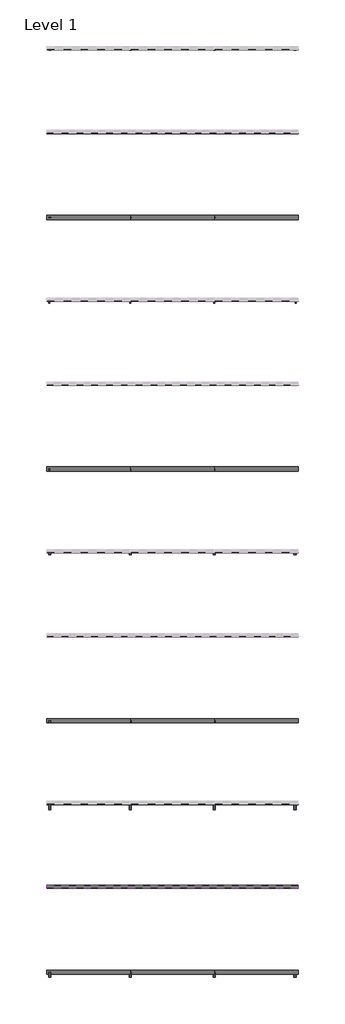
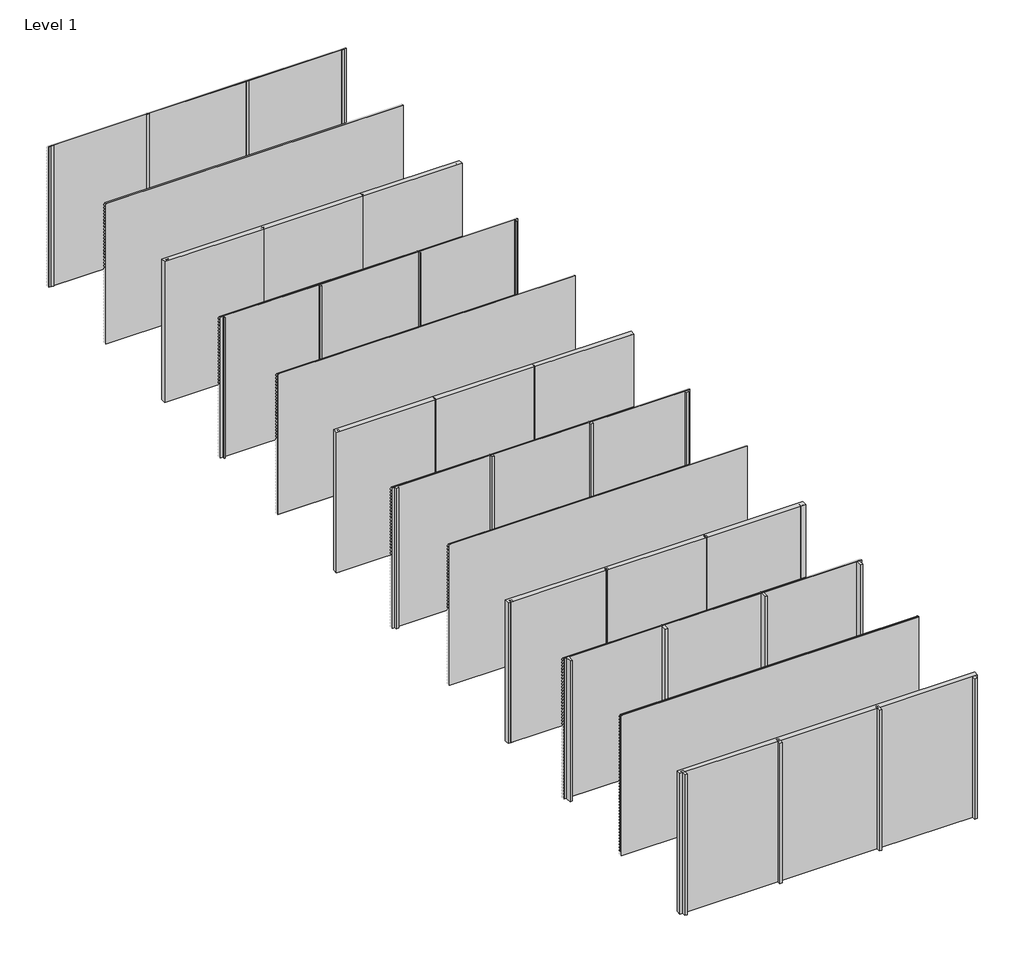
# One storey, part 1 of 9: 45 proxies, 32 members, 28 plates.
"""IFC4 building model written with IfcOpenShell, lengths in millimetres."""

from ifc_helpers import new_model, si_unit, frame, origin, origin_with_axes, place, context, project, spatial, polyline, outline, extrude, transform, mapped, element, save
from components import rectangular_mullion_bbbcbd30, rectangular_mullion_f8d4a220, rectangular_mullion_81aaf6fe, rectangular_mullion_6e08dc26, rectangular_mullion_75c52e10, rectangular_mullion_40295cf1, rectangular_mullion_7f158cb3, rectangular_mullion_66519e13, rectangular_mullion_5829b51c, rectangular_mullion_3b5b8a15, rectangular_mullion_81543344, rectangular_mullion_041a21c4, empty_system_panel_empty_24b1c33f, empty_system_panel_empty_63adb5f1

model = new_model("IFC4")

# Units and contexts
model_context = context("Model", 3, world=origin())
ifc_project = project(units=[si_unit("LENGTHUNIT", "METRE", prefix="MILLI")], contexts=[model_context])

# Site, building, storey
site = spatial("IfcSite", under=ifc_project)
building = spatial("IfcBuilding", under=site)
storey = spatial("IfcBuildingStorey", under=building, Name="Level 1", Elevation=0.0)

# Proxies
placement = place(None, origin())
element("IfcBuildingElementProxy", 1, Name="Wall Sweeps", at=placement, inside=storey, context=model_context, shape_type="SweptSolid", body=[
    extrude(outline(polyline([(-19926.0, 2942.0), (-19926.0, 2919.0), (-19961.5, 2954.5), (-19997.0, 2919.0), (-19997.0, 2942.0), (-19962.5, 2976.5), (-19962.5, 2990.0), (-19960.5, 2990.0), (-19960.5, 2976.5), (-19926.0, 2942.0)])), frame((0.0, 0.0, 0.0), z_axis=(1.0, 0.0, 0.0), x_axis=(0.0, 1.0, 0.0)), (0.0, 0.0, 1.0), 6000.0),
])
element("IfcBuildingElementProxy", 2, Name="Wall Sweeps", at=placement, inside=storey, context=model_context, shape_type="SweptSolid", body=[
    extrude(outline(polyline([(-19926.0, 2877.0), (-19926.0, 2854.0), (-19961.5, 2889.5), (-19997.0, 2854.0), (-19997.0, 2877.0), (-19962.5, 2911.5), (-19962.5, 2925.0), (-19960.5, 2925.0), (-19960.5, 2911.5), (-19926.0, 2877.0)])), frame((0.0, 0.0, 0.0), z_axis=(1.0, 0.0, 0.0), x_axis=(0.0, 1.0, 0.0)), (0.0, 0.0, 1.0), 6000.0),
])
element("IfcBuildingElementProxy", 3, Name="Wall Sweeps", at=placement, inside=storey, context=model_context, shape_type="SweptSolid", body=[
    extrude(outline(polyline([(-19926.0, 2812.0), (-19926.0, 2789.0), (-19961.5, 2824.5), (-19997.0, 2789.0), (-19997.0, 2812.0), (-19962.5, 2846.5), (-19962.5, 2860.0), (-19960.5, 2860.0), (-19960.5, 2846.5), (-19926.0, 2812.0)])), frame((0.0, 0.0, 0.0), z_axis=(1.0, 0.0, 0.0), x_axis=(0.0, 1.0, 0.0)), (0.0, 0.0, 1.0), 6000.0),
])
element("IfcBuildingElementProxy", 4, Name="Wall Sweeps", at=placement, inside=storey, context=model_context, shape_type="SweptSolid", body=[
    extrude(outline(polyline([(-19926.0, 2747.0), (-19926.0, 2724.0), (-19961.5, 2759.5), (-19997.0, 2724.0), (-19997.0, 2747.0), (-19962.5, 2781.5), (-19962.5, 2795.0), (-19960.5, 2795.0), (-19960.5, 2781.5), (-19926.0, 2747.0)])), frame((0.0, 0.0, 0.0), z_axis=(1.0, 0.0, 0.0), x_axis=(0.0, 1.0, 0.0)), (0.0, 0.0, 1.0), 6000.0),
])
element("IfcBuildingElementProxy", 5, Name="Wall Sweeps", at=placement, inside=storey, context=model_context, shape_type="SweptSolid", body=[
    extrude(outline(polyline([(-19926.0, 2682.0), (-19926.0, 2659.0), (-19961.5, 2694.5), (-19997.0, 2659.0), (-19997.0, 2682.0), (-19962.5, 2716.5), (-19962.5, 2730.0), (-19960.5, 2730.0), (-19960.5, 2716.5), (-19926.0, 2682.0)])), frame((0.0, 0.0, 0.0), z_axis=(1.0, 0.0, 0.0), x_axis=(0.0, 1.0, 0.0)), (0.0, 0.0, 1.0), 6000.0),
])
element("IfcBuildingElementProxy", 6, Name="Wall Sweeps", at=placement, inside=storey, context=model_context, shape_type="SweptSolid", body=[
    extrude(outline(polyline([(-19926.0, 2617.0), (-19926.0, 2594.0), (-19961.5, 2629.5), (-19997.0, 2594.0), (-19997.0, 2617.0), (-19962.5, 2651.5), (-19962.5, 2665.0), (-19960.5, 2665.0), (-19960.5, 2651.5), (-19926.0, 2617.0)])), frame((0.0, 0.0, 0.0), z_axis=(1.0, 0.0, 0.0), x_axis=(0.0, 1.0, 0.0)), (0.0, 0.0, 1.0), 6000.0),
])
element("IfcBuildingElementProxy", 7, Name="Wall Sweeps", at=placement, inside=storey, context=model_context, shape_type="SweptSolid", body=[
    extrude(outline(polyline([(-19926.0, 2552.0), (-19926.0, 2529.0), (-19961.5, 2564.5), (-19997.0, 2529.0), (-19997.0, 2552.0), (-19962.5, 2586.5), (-19962.5, 2600.0), (-19960.5, 2600.0), (-19960.5, 2586.5), (-19926.0, 2552.0)])), frame((0.0, 0.0, 0.0), z_axis=(1.0, 0.0, 0.0), x_axis=(0.0, 1.0, 0.0)), (0.0, 0.0, 1.0), 6000.0),
])
element("IfcBuildingElementProxy", 8, Name="Wall Sweeps", at=placement, inside=storey, context=model_context, shape_type="SweptSolid", body=[
    extrude(outline(polyline([(-19926.0, 2487.0), (-19926.0, 2464.0), (-19961.5, 2499.5), (-19997.0, 2464.0), (-19997.0, 2487.0), (-19962.5, 2521.5), (-19962.5, 2535.0), (-19960.5, 2535.0), (-19960.5, 2521.5), (-19926.0, 2487.0)])), frame((0.0, 0.0, 0.0), z_axis=(1.0, 0.0, 0.0), x_axis=(0.0, 1.0, 0.0)), (0.0, 0.0, 1.0), 6000.0),
])
element("IfcBuildingElementProxy", 9, Name="Wall Sweeps", at=placement, inside=storey, context=model_context, shape_type="SweptSolid", body=[
    extrude(outline(polyline([(-19926.0, 2422.0), (-19926.0, 2399.0), (-19961.5, 2434.5), (-19997.0, 2399.0), (-19997.0, 2422.0), (-19962.5, 2456.5), (-19962.5, 2470.0), (-19960.5, 2470.0), (-19960.5, 2456.5), (-19926.0, 2422.0)])), frame((0.0, 0.0, 0.0), z_axis=(1.0, 0.0, 0.0), x_axis=(0.0, 1.0, 0.0)), (0.0, 0.0, 1.0), 6000.0),
])
element("IfcBuildingElementProxy", 10, Name="Wall Sweeps", at=placement, inside=storey, context=model_context, shape_type="SweptSolid", body=[
    extrude(outline(polyline([(-19926.0, 2357.0), (-19926.0, 2334.0), (-19961.5, 2369.5), (-19997.0, 2334.0), (-19997.0, 2357.0), (-19962.5, 2391.5), (-19962.5, 2405.0), (-19960.5, 2405.0), (-19960.5, 2391.5), (-19926.0, 2357.0)])), frame((0.0, 0.0, 0.0), z_axis=(1.0, 0.0, 0.0), x_axis=(0.0, 1.0, 0.0)), (0.0, 0.0, 1.0), 6000.0),
])
element("IfcBuildingElementProxy", 11, Name="Wall Sweeps", at=placement, inside=storey, context=model_context, shape_type="SweptSolid", body=[
    extrude(outline(polyline([(-19926.0, 2292.0), (-19926.0, 2269.0), (-19961.5, 2304.5), (-19997.0, 2269.0), (-19997.0, 2292.0), (-19962.5, 2326.5), (-19962.5, 2340.0), (-19960.5, 2340.0), (-19960.5, 2326.5), (-19926.0, 2292.0)])), frame((0.0, 0.0, 0.0), z_axis=(1.0, 0.0, 0.0), x_axis=(0.0, 1.0, 0.0)), (0.0, 0.0, 1.0), 6000.0),
])
element("IfcBuildingElementProxy", 12, Name="Wall Sweeps", at=placement, inside=storey, context=model_context, shape_type="SweptSolid", body=[
    extrude(outline(polyline([(-19926.0, 2227.0), (-19926.0, 2204.0), (-19961.5, 2239.5), (-19997.0, 2204.0), (-19997.0, 2227.0), (-19962.5, 2261.5), (-19962.5, 2275.0), (-19960.5, 2275.0), (-19960.5, 2261.5), (-19926.0, 2227.0)])), frame((0.0, 0.0, 0.0), z_axis=(1.0, 0.0, 0.0), x_axis=(0.0, 1.0, 0.0)), (0.0, 0.0, 1.0), 6000.0),
])
element("IfcBuildingElementProxy", 13, Name="Wall Sweeps", at=placement, inside=storey, context=model_context, shape_type="SweptSolid", body=[
    extrude(outline(polyline([(-19926.0, 2162.0), (-19926.0, 2139.0), (-19961.5, 2174.5), (-19997.0, 2139.0), (-19997.0, 2162.0), (-19962.5, 2196.5), (-19962.5, 2210.0), (-19960.5, 2210.0), (-19960.5, 2196.5), (-19926.0, 2162.0)])), frame((0.0, 0.0, 0.0), z_axis=(1.0, 0.0, 0.0), x_axis=(0.0, 1.0, 0.0)), (0.0, 0.0, 1.0), 6000.0),
])
element("IfcBuildingElementProxy", 14, Name="Wall Sweeps", at=placement, inside=storey, context=model_context, shape_type="SweptSolid", body=[
    extrude(outline(polyline([(-19926.0, 2097.0), (-19926.0, 2074.0), (-19961.5, 2109.5), (-19997.0, 2074.0), (-19997.0, 2097.0), (-19962.5, 2131.5), (-19962.5, 2145.0), (-19960.5, 2145.0), (-19960.5, 2131.5), (-19926.0, 2097.0)])), frame((0.0, 0.0, 0.0), z_axis=(1.0, 0.0, 0.0), x_axis=(0.0, 1.0, 0.0)), (0.0, 0.0, 1.0), 6000.0),
])
element("IfcBuildingElementProxy", 15, Name="Wall Sweeps", at=placement, inside=storey, context=model_context, shape_type="SweptSolid", body=[
    extrude(outline(polyline([(-19926.0, 2032.0), (-19926.0, 2009.0), (-19961.5, 2044.5), (-19997.0, 2009.0), (-19997.0, 2032.0), (-19962.5, 2066.5), (-19962.5, 2080.0), (-19960.5, 2080.0), (-19960.5, 2066.5), (-19926.0, 2032.0)])), frame((0.0, 0.0, 0.0), z_axis=(1.0, 0.0, 0.0), x_axis=(0.0, 1.0, 0.0)), (0.0, 0.0, 1.0), 6000.0),
])
element("IfcBuildingElementProxy", 16, Name="Wall Sweeps", at=placement, inside=storey, context=model_context, shape_type="SweptSolid", body=[
    extrude(outline(polyline([(-19926.0, 1967.0), (-19926.0, 1944.0), (-19961.5, 1979.5), (-19997.0, 1944.0), (-19997.0, 1967.0), (-19962.5, 2001.5), (-19962.5, 2015.0), (-19960.5, 2015.0), (-19960.5, 2001.5), (-19926.0, 1967.0)])), frame((0.0, 0.0, 0.0), z_axis=(1.0, 0.0, 0.0), x_axis=(0.0, 1.0, 0.0)), (0.0, 0.0, 1.0), 6000.0),
])
element("IfcBuildingElementProxy", 17, Name="Wall Sweeps", at=placement, inside=storey, context=model_context, shape_type="SweptSolid", body=[
    extrude(outline(polyline([(-19926.0, 1902.0), (-19926.0, 1879.0), (-19961.5, 1914.5), (-19997.0, 1879.0), (-19997.0, 1902.0), (-19962.5, 1936.5), (-19962.5, 1950.0), (-19960.5, 1950.0), (-19960.5, 1936.5), (-19926.0, 1902.0)])), frame((0.0, 0.0, 0.0), z_axis=(1.0, 0.0, 0.0), x_axis=(0.0, 1.0, 0.0)), (0.0, 0.0, 1.0), 6000.0),
])
element("IfcBuildingElementProxy", 18, Name="Wall Sweeps", at=placement, inside=storey, context=model_context, shape_type="SweptSolid", body=[
    extrude(outline(polyline([(-19926.0, 1837.0), (-19926.0, 1814.0), (-19961.5, 1849.5), (-19997.0, 1814.0), (-19997.0, 1837.0), (-19962.5, 1871.5), (-19962.5, 1885.0), (-19960.5, 1885.0), (-19960.5, 1871.5), (-19926.0, 1837.0)])), frame((0.0, 0.0, 0.0), z_axis=(1.0, 0.0, 0.0), x_axis=(0.0, 1.0, 0.0)), (0.0, 0.0, 1.0), 6000.0),
])
element("IfcBuildingElementProxy", 19, Name="Wall Sweeps", at=placement, inside=storey, context=model_context, shape_type="SweptSolid", body=[
    extrude(outline(polyline([(-19926.0, 1772.0), (-19926.0, 1749.0), (-19961.5, 1784.5), (-19997.0, 1749.0), (-19997.0, 1772.0), (-19962.5, 1806.5), (-19962.5, 1820.0), (-19960.5, 1820.0), (-19960.5, 1806.5), (-19926.0, 1772.0)])), frame((0.0, 0.0, 0.0), z_axis=(1.0, 0.0, 0.0), x_axis=(0.0, 1.0, 0.0)), (0.0, 0.0, 1.0), 6000.0),
])
element("IfcBuildingElementProxy", 20, Name="Wall Sweeps", at=placement, inside=storey, context=model_context, shape_type="SweptSolid", body=[
    extrude(outline(polyline([(-19926.0, 1707.0), (-19926.0, 1684.0), (-19961.5, 1719.5), (-19997.0, 1684.0), (-19997.0, 1707.0), (-19962.5, 1741.5), (-19962.5, 1755.0), (-19960.5, 1755.0), (-19960.5, 1741.5), (-19926.0, 1707.0)])), frame((0.0, 0.0, 0.0), z_axis=(1.0, 0.0, 0.0), x_axis=(0.0, 1.0, 0.0)), (0.0, 0.0, 1.0), 6000.0),
])
element("IfcBuildingElementProxy", 21, Name="Wall Sweeps", at=placement, inside=storey, context=model_context, shape_type="SweptSolid", body=[
    extrude(outline(polyline([(-19926.0, 1642.0), (-19926.0, 1619.0), (-19961.5, 1654.5), (-19997.0, 1619.0), (-19997.0, 1642.0), (-19962.5, 1676.5), (-19962.5, 1690.0), (-19960.5, 1690.0), (-19960.5, 1676.5), (-19926.0, 1642.0)])), frame((0.0, 0.0, 0.0), z_axis=(1.0, 0.0, 0.0), x_axis=(0.0, 1.0, 0.0)), (0.0, 0.0, 1.0), 6000.0),
])
element("IfcBuildingElementProxy", 22, Name="Wall Sweeps", at=placement, inside=storey, context=model_context, shape_type="SweptSolid", body=[
    extrude(outline(polyline([(-19926.0, 1577.0), (-19926.0, 1554.0), (-19961.5, 1589.5), (-19997.0, 1554.0), (-19997.0, 1577.0), (-19962.5, 1611.5), (-19962.5, 1625.0), (-19960.5, 1625.0), (-19960.5, 1611.5), (-19926.0, 1577.0)])), frame((0.0, 0.0, 0.0), z_axis=(1.0, 0.0, 0.0), x_axis=(0.0, 1.0, 0.0)), (0.0, 0.0, 1.0), 6000.0),
])
element("IfcBuildingElementProxy", 23, Name="Wall Sweeps", at=placement, inside=storey, context=model_context, shape_type="SweptSolid", body=[
    extrude(outline(polyline([(-19926.0, 1512.0), (-19926.0, 1489.0), (-19961.5, 1524.5), (-19997.0, 1489.0), (-19997.0, 1512.0), (-19962.5, 1546.5), (-19962.5, 1560.0), (-19960.5, 1560.0), (-19960.5, 1546.5), (-19926.0, 1512.0)])), frame((0.0, 0.0, 0.0), z_axis=(1.0, 0.0, 0.0), x_axis=(0.0, 1.0, 0.0)), (0.0, 0.0, 1.0), 6000.0),
])
element("IfcBuildingElementProxy", 24, Name="Wall Sweeps", at=placement, inside=storey, context=model_context, shape_type="SweptSolid", body=[
    extrude(outline(polyline([(-19926.0, 1447.0), (-19926.0, 1424.0), (-19961.5, 1459.5), (-19997.0, 1424.0), (-19997.0, 1447.0), (-19962.5, 1481.5), (-19962.5, 1495.0), (-19960.5, 1495.0), (-19960.5, 1481.5), (-19926.0, 1447.0)])), frame((0.0, 0.0, 0.0), z_axis=(1.0, 0.0, 0.0), x_axis=(0.0, 1.0, 0.0)), (0.0, 0.0, 1.0), 6000.0),
])
element("IfcBuildingElementProxy", 25, Name="Wall Sweeps", at=placement, inside=storey, context=model_context, shape_type="SweptSolid", body=[
    extrude(outline(polyline([(-19926.0, 1382.0), (-19926.0, 1359.0), (-19961.5, 1394.5), (-19997.0, 1359.0), (-19997.0, 1382.0), (-19962.5, 1416.5), (-19962.5, 1430.0), (-19960.5, 1430.0), (-19960.5, 1416.5), (-19926.0, 1382.0)])), frame((0.0, 0.0, 0.0), z_axis=(1.0, 0.0, 0.0), x_axis=(0.0, 1.0, 0.0)), (0.0, 0.0, 1.0), 6000.0),
])
element("IfcBuildingElementProxy", 26, Name="Wall Sweeps", at=placement, inside=storey, context=model_context, shape_type="SweptSolid", body=[
    extrude(outline(polyline([(-19926.0, 1317.0), (-19926.0, 1294.0), (-19961.5, 1329.5), (-19997.0, 1294.0), (-19997.0, 1317.0), (-19962.5, 1351.5), (-19962.5, 1365.0), (-19960.5, 1365.0), (-19960.5, 1351.5), (-19926.0, 1317.0)])), frame((0.0, 0.0, 0.0), z_axis=(1.0, 0.0, 0.0), x_axis=(0.0, 1.0, 0.0)), (0.0, 0.0, 1.0), 6000.0),
])
element("IfcBuildingElementProxy", 27, Name="Wall Sweeps", at=placement, inside=storey, context=model_context, shape_type="SweptSolid", body=[
    extrude(outline(polyline([(-19926.0, 1252.0), (-19926.0, 1229.0), (-19961.5, 1264.5), (-19997.0, 1229.0), (-19997.0, 1252.0), (-19962.5, 1286.5), (-19962.5, 1300.0), (-19960.5, 1300.0), (-19960.5, 1286.5), (-19926.0, 1252.0)])), frame((0.0, 0.0, 0.0), z_axis=(1.0, 0.0, 0.0), x_axis=(0.0, 1.0, 0.0)), (0.0, 0.0, 1.0), 6000.0),
])
element("IfcBuildingElementProxy", 28, Name="Wall Sweeps", at=placement, inside=storey, context=model_context, shape_type="SweptSolid", body=[
    extrude(outline(polyline([(-19926.0, 1187.0), (-19926.0, 1164.0), (-19961.5, 1199.5), (-19997.0, 1164.0), (-19997.0, 1187.0), (-19962.5, 1221.5), (-19962.5, 1235.0), (-19960.5, 1235.0), (-19960.5, 1221.5), (-19926.0, 1187.0)])), frame((0.0, 0.0, 0.0), z_axis=(1.0, 0.0, 0.0), x_axis=(0.0, 1.0, 0.0)), (0.0, 0.0, 1.0), 6000.0),
])
element("IfcBuildingElementProxy", 29, Name="Wall Sweeps", at=placement, inside=storey, context=model_context, shape_type="SweptSolid", body=[
    extrude(outline(polyline([(-19926.0, 1122.0), (-19926.0, 1099.0), (-19961.5, 1134.5), (-19997.0, 1099.0), (-19997.0, 1122.0), (-19962.5, 1156.5), (-19962.5, 1170.0), (-19960.5, 1170.0), (-19960.5, 1156.5), (-19926.0, 1122.0)])), frame((0.0, 0.0, 0.0), z_axis=(1.0, 0.0, 0.0), x_axis=(0.0, 1.0, 0.0)), (0.0, 0.0, 1.0), 6000.0),
])
element("IfcBuildingElementProxy", 30, Name="Wall Sweeps", at=placement, inside=storey, context=model_context, shape_type="SweptSolid", body=[
    extrude(outline(polyline([(-19926.0, 1057.0), (-19926.0, 1034.0), (-19961.5, 1069.5), (-19997.0, 1034.0), (-19997.0, 1057.0), (-19962.5, 1091.5), (-19962.5, 1105.0), (-19960.5, 1105.0), (-19960.5, 1091.5), (-19926.0, 1057.0)])), frame((0.0, 0.0, 0.0), z_axis=(1.0, 0.0, 0.0), x_axis=(0.0, 1.0, 0.0)), (0.0, 0.0, 1.0), 6000.0),
])
element("IfcBuildingElementProxy", 31, Name="Wall Sweeps", at=placement, inside=storey, context=model_context, shape_type="SweptSolid", body=[
    extrude(outline(polyline([(-19926.0, 992.0), (-19926.0, 969.0), (-19961.5, 1004.5), (-19997.0, 969.0), (-19997.0, 992.0), (-19962.5, 1026.5), (-19962.5, 1040.0), (-19960.5, 1040.0), (-19960.5, 1026.5), (-19926.0, 992.0)])), frame((0.0, 0.0, 0.0), z_axis=(1.0, 0.0, 0.0), x_axis=(0.0, 1.0, 0.0)), (0.0, 0.0, 1.0), 6000.0),
])
element("IfcBuildingElementProxy", 32, Name="Wall Sweeps", at=placement, inside=storey, context=model_context, shape_type="SweptSolid", body=[
    extrude(outline(polyline([(-19926.0, 927.0), (-19926.0, 904.0), (-19961.5, 939.5), (-19997.0, 904.0), (-19997.0, 927.0), (-19962.5, 961.5), (-19962.5, 975.0), (-19960.5, 975.0), (-19960.5, 961.5), (-19926.0, 927.0)])), frame((0.0, 0.0, 0.0), z_axis=(1.0, 0.0, 0.0), x_axis=(0.0, 1.0, 0.0)), (0.0, 0.0, 1.0), 6000.0),
])
element("IfcBuildingElementProxy", 33, Name="Wall Sweeps", at=placement, inside=storey, context=model_context, shape_type="SweptSolid", body=[
    extrude(outline(polyline([(-19926.0, 862.0), (-19926.0, 839.0), (-19961.5, 874.5), (-19997.0, 839.0), (-19997.0, 862.0), (-19962.5, 896.5), (-19962.5, 910.0), (-19960.5, 910.0), (-19960.5, 896.5), (-19926.0, 862.0)])), frame((0.0, 0.0, 0.0), z_axis=(1.0, 0.0, 0.0), x_axis=(0.0, 1.0, 0.0)), (0.0, 0.0, 1.0), 6000.0),
])
element("IfcBuildingElementProxy", 34, Name="Wall Sweeps", at=placement, inside=storey, context=model_context, shape_type="SweptSolid", body=[
    extrude(outline(polyline([(-19926.0, 797.0), (-19926.0, 774.0), (-19961.5, 809.5), (-19997.0, 774.0), (-19997.0, 797.0), (-19962.5, 831.5), (-19962.5, 845.0), (-19960.5, 845.0), (-19960.5, 831.5), (-19926.0, 797.0)])), frame((0.0, 0.0, 0.0), z_axis=(1.0, 0.0, 0.0), x_axis=(0.0, 1.0, 0.0)), (0.0, 0.0, 1.0), 6000.0),
])
element("IfcBuildingElementProxy", 35, Name="Wall Sweeps", at=placement, inside=storey, context=model_context, shape_type="SweptSolid", body=[
    extrude(outline(polyline([(-19926.0, 732.0), (-19926.0, 709.0), (-19961.5, 744.5), (-19997.0, 709.0), (-19997.0, 732.0), (-19962.5, 766.5), (-19962.5, 780.0), (-19960.5, 780.0), (-19960.5, 766.5), (-19926.0, 732.0)])), frame((0.0, 0.0, 0.0), z_axis=(1.0, 0.0, 0.0), x_axis=(0.0, 1.0, 0.0)), (0.0, 0.0, 1.0), 6000.0),
])
element("IfcBuildingElementProxy", 36, Name="Wall Sweeps", at=placement, inside=storey, context=model_context, shape_type="SweptSolid", body=[
    extrude(outline(polyline([(-19926.0, 667.0), (-19926.0, 644.0), (-19961.5, 679.5), (-19997.0, 644.0), (-19997.0, 667.0), (-19962.5, 701.5), (-19962.5, 715.0), (-19960.5, 715.0), (-19960.5, 701.5), (-19926.0, 667.0)])), frame((0.0, 0.0, 0.0), z_axis=(1.0, 0.0, 0.0), x_axis=(0.0, 1.0, 0.0)), (0.0, 0.0, 1.0), 6000.0),
])
element("IfcBuildingElementProxy", 37, Name="Wall Sweeps", at=placement, inside=storey, context=model_context, shape_type="SweptSolid", body=[
    extrude(outline(polyline([(-19926.0, 602.0), (-19926.0, 579.0), (-19961.5, 614.5), (-19997.0, 579.0), (-19997.0, 602.0), (-19962.5, 636.5), (-19962.5, 650.0), (-19960.5, 650.0), (-19960.5, 636.5), (-19926.0, 602.0)])), frame((0.0, 0.0, 0.0), z_axis=(1.0, 0.0, 0.0), x_axis=(0.0, 1.0, 0.0)), (0.0, 0.0, 1.0), 6000.0),
])
element("IfcBuildingElementProxy", 38, Name="Wall Sweeps", at=placement, inside=storey, context=model_context, shape_type="SweptSolid", body=[
    extrude(outline(polyline([(-19926.0, 537.0), (-19926.0, 514.0), (-19961.5, 549.5), (-19997.0, 514.0), (-19997.0, 537.0), (-19962.5, 571.5), (-19962.5, 585.0), (-19960.5, 585.0), (-19960.5, 571.5), (-19926.0, 537.0)])), frame((0.0, 0.0, 0.0), z_axis=(1.0, 0.0, 0.0), x_axis=(0.0, 1.0, 0.0)), (0.0, 0.0, 1.0), 6000.0),
])
element("IfcBuildingElementProxy", 39, Name="Wall Sweeps", at=placement, inside=storey, context=model_context, shape_type="SweptSolid", body=[
    extrude(outline(polyline([(-19926.0, 472.0), (-19926.0, 449.0), (-19961.5, 484.5), (-19997.0, 449.0), (-19997.0, 472.0), (-19962.5, 506.5), (-19962.5, 520.0), (-19960.5, 520.0), (-19960.5, 506.5), (-19926.0, 472.0)])), frame((0.0, 0.0, 0.0), z_axis=(1.0, 0.0, 0.0), x_axis=(0.0, 1.0, 0.0)), (0.0, 0.0, 1.0), 6000.0),
])
element("IfcBuildingElementProxy", 40, Name="Wall Sweeps", at=placement, inside=storey, context=model_context, shape_type="SweptSolid", body=[
    extrude(outline(polyline([(-19926.0, 407.0), (-19926.0, 384.0), (-19961.5, 419.5), (-19997.0, 384.0), (-19997.0, 407.0), (-19962.5, 441.5), (-19962.5, 455.0), (-19960.5, 455.0), (-19960.5, 441.5), (-19926.0, 407.0)])), frame((0.0, 0.0, 0.0), z_axis=(1.0, 0.0, 0.0), x_axis=(0.0, 1.0, 0.0)), (0.0, 0.0, 1.0), 6000.0),
])
element("IfcBuildingElementProxy", 41, Name="Wall Sweeps", at=placement, inside=storey, context=model_context, shape_type="SweptSolid", body=[
    extrude(outline(polyline([(-19926.0, 342.0), (-19926.0, 319.0), (-19961.5, 354.5), (-19997.0, 319.0), (-19997.0, 342.0), (-19962.5, 376.5), (-19962.5, 390.0), (-19960.5, 390.0), (-19960.5, 376.5), (-19926.0, 342.0)])), frame((0.0, 0.0, 0.0), z_axis=(1.0, 0.0, 0.0), x_axis=(0.0, 1.0, 0.0)), (0.0, 0.0, 1.0), 6000.0),
])
element("IfcBuildingElementProxy", 42, Name="Wall Sweeps", at=placement, inside=storey, context=model_context, shape_type="SweptSolid", body=[
    extrude(outline(polyline([(-19926.0, 277.0), (-19926.0, 254.0), (-19961.5, 289.5), (-19997.0, 254.0), (-19997.0, 277.0), (-19962.5, 311.5), (-19962.5, 325.0), (-19960.5, 325.0), (-19960.5, 311.5), (-19926.0, 277.0)])), frame((0.0, 0.0, 0.0), z_axis=(1.0, 0.0, 0.0), x_axis=(0.0, 1.0, 0.0)), (0.0, 0.0, 1.0), 6000.0),
])
element("IfcBuildingElementProxy", 43, Name="Wall Sweeps", at=placement, inside=storey, context=model_context, shape_type="SweptSolid", body=[
    extrude(outline(polyline([(-19926.0, 212.0), (-19926.0, 189.0), (-19961.5, 224.5), (-19997.0, 189.0), (-19997.0, 212.0), (-19962.5, 246.5), (-19962.5, 260.0), (-19960.5, 260.0), (-19960.5, 246.5), (-19926.0, 212.0)])), frame((0.0, 0.0, 0.0), z_axis=(1.0, 0.0, 0.0), x_axis=(0.0, 1.0, 0.0)), (0.0, 0.0, 1.0), 6000.0),
])
element("IfcBuildingElementProxy", 44, Name="Wall Sweeps", at=placement, inside=storey, context=model_context, shape_type="SweptSolid", body=[
    extrude(outline(polyline([(-19926.0, 147.0), (-19926.0, 124.0), (-19961.5, 159.5), (-19997.0, 124.0), (-19997.0, 147.0), (-19962.5, 181.5), (-19962.5, 195.0), (-19960.5, 195.0), (-19960.5, 181.5), (-19926.0, 147.0)])), frame((0.0, 0.0, 0.0), z_axis=(1.0, 0.0, 0.0), x_axis=(0.0, 1.0, 0.0)), (0.0, 0.0, 1.0), 6000.0),
])
element("IfcBuildingElementProxy", 45, Name="Wall Sweeps", at=placement, inside=storey, context=model_context, shape_type="SweptSolid", body=[
    extrude(outline(polyline([(-19926.0, 82.0), (-19926.0, 59.0), (-19961.5, 94.5), (-19997.0, 59.0), (-19997.0, 82.0), (-19962.5, 116.5), (-19962.5, 130.0), (-19960.5, 130.0), (-19960.5, 116.5), (-19926.0, 82.0)])), frame((0.0, 0.0, 0.0), z_axis=(1.0, 0.0, 0.0), x_axis=(0.0, 1.0, 0.0)), (0.0, 0.0, 1.0), 6000.0),
])

# Members
rectangular_mullion_shape = rectangular_mullion_bbbcbd30(model_context)
element("IfcMember", 46, ObjectType="Rectangular Mullion : RSen_21_CWM_support profile - 50x12 - left_gen_duco projects", at=placement, inside=storey, context=model_context, shape_type="MappedRepresentation", body=[
    mapped(rectangular_mullion_shape, transform((0.0, 0.0, 0.0), x_axis=(-1.0, 0.0, 0.0), y_axis=(0.0, 1.0, 0.0), z_axis=(0.0, 0.0, -1.0))),
])
element("IfcMember", 47, ObjectType="Rectangular Mullion : RSen_21_CWM_support profile - 50x12 - left_gen_duco projects", at=placement, inside=storey, context=model_context, shape_type="MappedRepresentation", body=[
    mapped(rectangular_mullion_shape, transform((0.0, -4000.0, 0.0), x_axis=(-1.0, 0.0, 0.0), y_axis=(0.0, 1.0, 0.0), z_axis=(0.0, 0.0, -1.0))),
])
rectangular_mullion_2_shape = rectangular_mullion_f8d4a220(model_context)
element("IfcMember", 48, ObjectType="Rectangular Mullion : RSen_21_CWM_support profile - 50x12 - right_gen_duco projects", at=placement, inside=storey, context=model_context, shape_type="MappedRepresentation", body=[
    mapped(rectangular_mullion_2_shape, transform((6000.0, 0.0, 3000.0), x_axis=(1.0, 0.0, 0.0), y_axis=(0.0, 1.0, 0.0), z_axis=(0.0, 0.0, 1.0))),
])
element("IfcMember", 49, ObjectType="Rectangular Mullion : RSen_21_CWM_support profile - 50x12 - right_gen_duco projects", at=placement, inside=storey, context=model_context, shape_type="MappedRepresentation", body=[
    mapped(rectangular_mullion_2_shape, transform((6000.0, -4000.0, 3000.0), x_axis=(1.0, 0.0, 0.0), y_axis=(0.0, 1.0, 0.0), z_axis=(0.0, 0.0, 1.0))),
])
rectangular_mullion_3_shape = rectangular_mullion_81aaf6fe(model_context)
element("IfcMember", 50, ObjectType="Rectangular Mullion : RSen_21_CWM_support profile - 21x50 Multi - left_gen_duco projects", at=placement, inside=storey, context=model_context, shape_type="MappedRepresentation", body=[
    mapped(rectangular_mullion_3_shape, transform((0.0, -6000.0, 0.0), x_axis=(-1.0, 0.0, 0.0), y_axis=(0.0, 1.0, 0.0), z_axis=(0.0, 0.0, -1.0))),
])
element("IfcMember", 51, ObjectType="Rectangular Mullion : RSen_21_CWM_support profile - 21x50 Multi - left_gen_duco projects", at=placement, inside=storey, context=model_context, shape_type="MappedRepresentation", body=[
    mapped(rectangular_mullion_3_shape, transform((0.0, -10000.0, 0.0), x_axis=(-1.0, 0.0, 0.0), y_axis=(0.0, 1.0, 0.0), z_axis=(0.0, 0.0, -1.0))),
])
rectangular_mullion_4_shape = rectangular_mullion_6e08dc26(model_context)
element("IfcMember", 52, ObjectType="Rectangular Mullion : RSen_21_CWM_support profile - 21x50 Multi - right_gen_duco projects", at=placement, inside=storey, context=model_context, shape_type="MappedRepresentation", body=[
    mapped(rectangular_mullion_4_shape, transform((6000.0, -6000.0, 3000.0), x_axis=(1.0, 0.0, 0.0), y_axis=(0.0, 1.0, 0.0), z_axis=(0.0, 0.0, 1.0))),
])
element("IfcMember", 53, ObjectType="Rectangular Mullion : RSen_21_CWM_support profile - 21x50 Multi - right_gen_duco projects", at=placement, inside=storey, context=model_context, shape_type="MappedRepresentation", body=[
    mapped(rectangular_mullion_4_shape, transform((6000.0, -10000.0, 3000.0), x_axis=(1.0, 0.0, 0.0), y_axis=(0.0, 1.0, 0.0), z_axis=(0.0, 0.0, 1.0))),
])
rectangular_mullion_5_shape = rectangular_mullion_75c52e10(model_context)
element("IfcMember", 54, ObjectType="Rectangular Mullion : RSen_21_CWM_support profile - 50x50 - left_gen_duco projects", at=placement, inside=storey, context=model_context, shape_type="MappedRepresentation", body=[
    mapped(rectangular_mullion_5_shape, transform((0.0, -12000.0, 0.0), x_axis=(-1.0, 0.0, 0.0), y_axis=(0.0, 1.0, 0.0), z_axis=(0.0, 0.0, -1.0))),
])
element("IfcMember", 55, ObjectType="Rectangular Mullion : RSen_21_CWM_support profile - 50x50 - left_gen_duco projects", at=placement, inside=storey, context=model_context, shape_type="MappedRepresentation", body=[
    mapped(rectangular_mullion_5_shape, transform((0.0, -16000.0, 0.0), x_axis=(-1.0, 0.0, 0.0), y_axis=(0.0, 1.0, 0.0), z_axis=(0.0, 0.0, -1.0))),
])
rectangular_mullion_6_shape = rectangular_mullion_40295cf1(model_context)
element("IfcMember", 56, ObjectType="Rectangular Mullion : RSen_21_CWM_support profile - 50x50 - right_gen_duco projects", at=placement, inside=storey, context=model_context, shape_type="MappedRepresentation", body=[
    mapped(rectangular_mullion_6_shape, transform((6000.0, -12000.0, 3000.0), x_axis=(1.0, 0.0, 0.0), y_axis=(0.0, 1.0, 0.0), z_axis=(0.0, 0.0, 1.0))),
])
element("IfcMember", 57, ObjectType="Rectangular Mullion : RSen_21_CWM_support profile - 50x50 - right_gen_duco projects", at=placement, inside=storey, context=model_context, shape_type="MappedRepresentation", body=[
    mapped(rectangular_mullion_6_shape, transform((6000.0, -16000.0, 3000.0), x_axis=(1.0, 0.0, 0.0), y_axis=(0.0, 1.0, 0.0), z_axis=(0.0, 0.0, 1.0))),
])
rectangular_mullion_7_shape = rectangular_mullion_7f158cb3(model_context)
element("IfcMember", 58, ObjectType="Rectangular Mullion : RSen_21_CWM_support profile - 50x12_gen_duco projects", at=placement, inside=storey, context=model_context, shape_type="MappedRepresentation", body=[
    mapped(rectangular_mullion_7_shape, transform((4000.0, 0.0, 0.0), x_axis=(-1.0, 0.0, 0.0), y_axis=(0.0, 1.0, 0.0), z_axis=(0.0, 0.0, -1.0))),
])
element("IfcMember", 59, ObjectType="Rectangular Mullion : RSen_21_CWM_support profile - 50x12_gen_duco projects", at=placement, inside=storey, context=model_context, shape_type="MappedRepresentation", body=[
    mapped(rectangular_mullion_7_shape, transform((2000.0, 0.0, 0.0), x_axis=(-1.0, 0.0, 0.0), y_axis=(0.0, 1.0, 0.0), z_axis=(0.0, 0.0, -1.0))),
])
element("IfcMember", 60, ObjectType="Rectangular Mullion : RSen_21_CWM_support profile - 50x12_gen_duco projects", at=placement, inside=storey, context=model_context, shape_type="MappedRepresentation", body=[
    mapped(rectangular_mullion_7_shape, transform((4000.0, -4000.0, 0.0), x_axis=(-1.0, 0.0, 0.0), y_axis=(0.0, 1.0, 0.0), z_axis=(0.0, 0.0, -1.0))),
])
element("IfcMember", 61, ObjectType="Rectangular Mullion : RSen_21_CWM_support profile - 50x12_gen_duco projects", at=placement, inside=storey, context=model_context, shape_type="MappedRepresentation", body=[
    mapped(rectangular_mullion_7_shape, transform((2000.0, -4000.0, 0.0), x_axis=(-1.0, 0.0, 0.0), y_axis=(0.0, 1.0, 0.0), z_axis=(0.0, 0.0, -1.0))),
])
rectangular_mullion_8_shape = rectangular_mullion_66519e13(model_context)
element("IfcMember", 62, ObjectType="Rectangular Mullion : RSen_21_CWM_support profile - 21x50 Multi_gen_duco projects", at=placement, inside=storey, context=model_context, shape_type="MappedRepresentation", body=[
    mapped(rectangular_mullion_8_shape, transform((4000.0, -6000.0, 0.0), x_axis=(-1.0, 0.0, 0.0), y_axis=(0.0, 1.0, 0.0), z_axis=(0.0, 0.0, -1.0))),
])
element("IfcMember", 63, ObjectType="Rectangular Mullion : RSen_21_CWM_support profile - 21x50 Multi_gen_duco projects", at=placement, inside=storey, context=model_context, shape_type="MappedRepresentation", body=[
    mapped(rectangular_mullion_8_shape, transform((2000.0, -6000.0, 0.0), x_axis=(-1.0, 0.0, 0.0), y_axis=(0.0, 1.0, 0.0), z_axis=(0.0, 0.0, -1.0))),
])
element("IfcMember", 64, ObjectType="Rectangular Mullion : RSen_21_CWM_support profile - 21x50 Multi_gen_duco projects", at=placement, inside=storey, context=model_context, shape_type="MappedRepresentation", body=[
    mapped(rectangular_mullion_8_shape, transform((4000.0, -10000.0, 0.0), x_axis=(-1.0, 0.0, 0.0), y_axis=(0.0, 1.0, 0.0), z_axis=(0.0, 0.0, -1.0))),
])
element("IfcMember", 65, ObjectType="Rectangular Mullion : RSen_21_CWM_support profile - 21x50 Multi_gen_duco projects", at=placement, inside=storey, context=model_context, shape_type="MappedRepresentation", body=[
    mapped(rectangular_mullion_8_shape, transform((2000.0, -10000.0, 0.0), x_axis=(-1.0, 0.0, 0.0), y_axis=(0.0, 1.0, 0.0), z_axis=(0.0, 0.0, -1.0))),
])
rectangular_mullion_9_shape = rectangular_mullion_5829b51c(model_context)
element("IfcMember", 66, ObjectType="Rectangular Mullion : RSen_21_CWM_support profile - 50x50_gen_duco projects", at=placement, inside=storey, context=model_context, shape_type="MappedRepresentation", body=[
    mapped(rectangular_mullion_9_shape, transform((4000.0, -12000.0, 0.0), x_axis=(-1.0, 0.0, 0.0), y_axis=(0.0, 1.0, 0.0), z_axis=(0.0, 0.0, -1.0))),
])
element("IfcMember", 67, ObjectType="Rectangular Mullion : RSen_21_CWM_support profile - 50x50_gen_duco projects", at=placement, inside=storey, context=model_context, shape_type="MappedRepresentation", body=[
    mapped(rectangular_mullion_9_shape, transform((2000.0, -12000.0, 0.0), x_axis=(-1.0, 0.0, 0.0), y_axis=(0.0, 1.0, 0.0), z_axis=(0.0, 0.0, -1.0))),
])
element("IfcMember", 68, ObjectType="Rectangular Mullion : RSen_21_CWM_support profile - 50x50_gen_duco projects", at=placement, inside=storey, context=model_context, shape_type="MappedRepresentation", body=[
    mapped(rectangular_mullion_9_shape, transform((4000.0, -16000.0, 0.0), x_axis=(-1.0, 0.0, 0.0), y_axis=(0.0, 1.0, 0.0), z_axis=(0.0, 0.0, -1.0))),
])
element("IfcMember", 69, ObjectType="Rectangular Mullion : RSen_21_CWM_support profile - 50x50_gen_duco projects", at=placement, inside=storey, context=model_context, shape_type="MappedRepresentation", body=[
    mapped(rectangular_mullion_9_shape, transform((2000.0, -16000.0, 0.0), x_axis=(-1.0, 0.0, 0.0), y_axis=(0.0, 1.0, 0.0), z_axis=(0.0, 0.0, -1.0))),
])
rectangular_mullion_10_shape = rectangular_mullion_3b5b8a15(model_context)
element("IfcMember", 70, ObjectType="Rectangular Mullion : RSen_21_CWM_support profile - 50x125_gen_duco projects", at=placement, inside=storey, context=model_context, shape_type="MappedRepresentation", body=[
    mapped(rectangular_mullion_10_shape, transform((2000.0000001, -18000.0, 0.0), x_axis=(1.0, 0.0, 0.0), y_axis=(0.0, -1.0, 0.0), z_axis=(0.0, 0.0, -1.0))),
])
element("IfcMember", 71, ObjectType="Rectangular Mullion : RSen_21_CWM_support profile - 50x125_gen_duco projects", at=placement, inside=storey, context=model_context, shape_type="MappedRepresentation", body=[
    mapped(rectangular_mullion_10_shape, transform((3999.9999999, -18000.0, 0.0), x_axis=(1.0, 0.0, 0.0), y_axis=(0.0, -1.0, 0.0), z_axis=(0.0, 0.0, -1.0))),
])
element("IfcMember", 72, ObjectType="Rectangular Mullion : RSen_21_CWM_support profile - 50x125_gen_duco projects", at=placement, inside=storey, context=model_context, shape_type="MappedRepresentation", body=[
    mapped(rectangular_mullion_10_shape, transform((2000.0000001, -22000.0, 0.0), x_axis=(1.0, 0.0, 0.0), y_axis=(0.0, -1.0, 0.0), z_axis=(0.0, 0.0, -1.0))),
])
element("IfcMember", 73, ObjectType="Rectangular Mullion : RSen_21_CWM_support profile - 50x125_gen_duco projects", at=placement, inside=storey, context=model_context, shape_type="MappedRepresentation", body=[
    mapped(rectangular_mullion_10_shape, transform((3999.9999999, -22000.0, 0.0), x_axis=(1.0, 0.0, 0.0), y_axis=(0.0, -1.0, 0.0), z_axis=(0.0, 0.0, -1.0))),
])
rectangular_mullion_11_shape = rectangular_mullion_81543344(model_context)
element("IfcMember", 74, ObjectType="Rectangular Mullion : RSen_21_CWM_support profile - 50x125 - left_gen_duco projects", at=placement, inside=storey, context=model_context, shape_type="MappedRepresentation", body=[
    mapped(rectangular_mullion_11_shape, transform((6000.0, -18000.0, 0.0), x_axis=(1.0, 0.0, 0.0), y_axis=(0.0, -1.0, 0.0), z_axis=(0.0, 0.0, -1.0))),
])
element("IfcMember", 75, ObjectType="Rectangular Mullion : RSen_21_CWM_support profile - 50x125 - left_gen_duco projects", at=placement, inside=storey, context=model_context, shape_type="MappedRepresentation", body=[
    mapped(rectangular_mullion_11_shape, transform((6000.0, -22000.0, 0.0), x_axis=(1.0, 0.0, 0.0), y_axis=(0.0, -1.0, 0.0), z_axis=(0.0, 0.0, -1.0))),
])
rectangular_mullion_12_shape = rectangular_mullion_041a21c4(model_context)
element("IfcMember", 76, ObjectType="Rectangular Mullion : RSen_21_CWM_support profile - 50x125 - right_gen_duco projects", at=placement, inside=storey, context=model_context, shape_type="MappedRepresentation", body=[
    mapped(rectangular_mullion_12_shape, transform((0.0, -18000.0, 3000.0), x_axis=(-1.0, 0.0, 0.0), y_axis=(0.0, -1.0, 0.0), z_axis=(0.0, 0.0, 1.0))),
])
element("IfcMember", 77, ObjectType="Rectangular Mullion : RSen_21_CWM_support profile - 50x125 - right_gen_duco projects", at=placement, inside=storey, context=model_context, shape_type="MappedRepresentation", body=[
    mapped(rectangular_mullion_12_shape, transform((0.0, -22000.0, 3000.0), x_axis=(-1.0, 0.0, 0.0), y_axis=(0.0, -1.0, 0.0), z_axis=(0.0, 0.0, 1.0))),
])

# Plates
element("IfcPlate", 78, ObjectType="RSen_21_WA_louvre blade classic W 70V_gen_duco projects", at=placement, inside=storey, context=model_context, shape_type="SweptSolid", body=[
    extrude(outline(polyline([(0.0, 1.0), (2000.0, 1.0), (2000.0, -1.0), (0.0, -1.0), (0.0, 1.0)])), origin_with_axes(), (0.0, 0.0, 1.0), 3000.0),
])
element("IfcPlate", 79, ObjectType="RSen_21_WA_louvre blade classic W 70V_gen_duco projects", at=placement, inside=storey, context=model_context, shape_type="SweptSolid", body=[
    extrude(outline(polyline([(2000.0, 1.0), (4000.0, 1.0), (4000.0, -1.0), (2000.0, -1.0), (2000.0, 1.0)])), origin_with_axes(), (0.0, 0.0, 1.0), 3000.0),
])
element("IfcPlate", 80, ObjectType="RSen_21_WA_louvre blade classic W 70V_gen_duco projects", at=placement, inside=storey, context=model_context, shape_type="SweptSolid", body=[
    extrude(outline(polyline([(4000.0, 1.0), (6000.0, 1.0), (6000.0, -1.0), (4000.0, -1.0), (4000.0, 1.0)])), origin_with_axes(), (0.0, 0.0, 1.0), 3000.0),
])
element("IfcPlate", 81, ObjectType="RSen_21_WA_louvre blade classic W 70V_gen_duco projects", at=placement, inside=storey, context=model_context, shape_type="SweptSolid", body=[
    extrude(outline(polyline([(0.0, -1999.0), (6000.0, -1999.0), (6000.0, -2001.0), (0.0, -2001.0), (0.0, -1999.0)])), origin_with_axes(), (0.0, 0.0, 1.0), 3000.0),
])
element("IfcPlate", 82, ObjectType="RSen_21_WA_louvre blade classic W 70V_gen_duco projects", at=placement, inside=storey, context=model_context, shape_type="SweptSolid", body=[
    extrude(outline(polyline([(0.0, -5999.0), (2000.0, -5999.0), (2000.0, -6001.0), (0.0, -6001.0), (0.0, -5999.0)])), origin_with_axes(), (0.0, 0.0, 1.0), 3000.0),
])
element("IfcPlate", 83, ObjectType="RSen_21_WA_louvre blade classic W 70V_gen_duco projects", at=placement, inside=storey, context=model_context, shape_type="SweptSolid", body=[
    extrude(outline(polyline([(2000.0, -5999.0), (4000.0, -5999.0), (4000.0, -6001.0), (2000.0, -6001.0), (2000.0, -5999.0)])), origin_with_axes(), (0.0, 0.0, 1.0), 3000.0),
])
element("IfcPlate", 84, ObjectType="RSen_21_WA_louvre blade classic W 70V_gen_duco projects", at=placement, inside=storey, context=model_context, shape_type="SweptSolid", body=[
    extrude(outline(polyline([(4000.0, -5999.0), (6000.0, -5999.0), (6000.0, -6001.0), (4000.0, -6001.0), (4000.0, -5999.0)])), origin_with_axes(), (0.0, 0.0, 1.0), 3000.0),
])
element("IfcPlate", 85, ObjectType="RSen_21_WA_louvre blade classic W 70V_gen_duco projects", at=placement, inside=storey, context=model_context, shape_type="SweptSolid", body=[
    extrude(outline(polyline([(0.0, -7999.0), (6000.0, -7999.0), (6000.0, -8001.0), (0.0, -8001.0), (0.0, -7999.0)])), origin_with_axes(), (0.0, 0.0, 1.0), 3000.0),
])
element("IfcPlate", 86, ObjectType="RSen_21_WA_louvre blade classic W 70V_gen_duco projects", at=placement, inside=storey, context=model_context, shape_type="SweptSolid", body=[
    extrude(outline(polyline([(0.0, -11999.0), (2000.0, -11999.0), (2000.0, -12001.0), (0.0, -12001.0), (0.0, -11999.0)])), origin_with_axes(), (0.0, 0.0, 1.0), 3000.0),
])
element("IfcPlate", 87, ObjectType="RSen_21_WA_louvre blade classic W 70V_gen_duco projects", at=placement, inside=storey, context=model_context, shape_type="SweptSolid", body=[
    extrude(outline(polyline([(2000.0, -11999.0), (4000.0, -11999.0), (4000.0, -12001.0), (2000.0, -12001.0), (2000.0, -11999.0)])), origin_with_axes(), (0.0, 0.0, 1.0), 3000.0),
])
element("IfcPlate", 88, ObjectType="RSen_21_WA_louvre blade classic W 70V_gen_duco projects", at=placement, inside=storey, context=model_context, shape_type="SweptSolid", body=[
    extrude(outline(polyline([(4000.0, -11999.0), (6000.0, -11999.0), (6000.0, -12001.0), (4000.0, -12001.0), (4000.0, -11999.0)])), origin_with_axes(), (0.0, 0.0, 1.0), 3000.0),
])
element("IfcPlate", 89, ObjectType="RSen_21_WA_louvre blade classic W 70V_gen_duco projects", at=placement, inside=storey, context=model_context, shape_type="SweptSolid", body=[
    extrude(outline(polyline([(0.0, -13999.0), (6000.0, -13999.0), (6000.0, -14001.0), (0.0, -14001.0), (0.0, -13999.0)])), origin_with_axes(), (0.0, 0.0, 1.0), 3000.0),
])
element("IfcPlate", 90, ObjectType="RSen_21_WA_louvre blade classic W 70V_gen_duco projects", at=placement, inside=storey, context=model_context, shape_type="SweptSolid", body=[
    extrude(outline(polyline([(6000.0, -18001.0), (3999.9999999, -18001.0), (3999.9999999, -17999.0), (6000.0, -17999.0), (6000.0, -18001.0)])), origin_with_axes(), (0.0, 0.0, 1.0), 3000.0),
])
element("IfcPlate", 91, ObjectType="RSen_21_WA_louvre blade classic W 70V_gen_duco projects", at=placement, inside=storey, context=model_context, shape_type="SweptSolid", body=[
    extrude(outline(polyline([(3999.9999999, -18001.0), (2000.0000001, -18001.0), (2000.0000001, -17999.0), (3999.9999999, -17999.0), (3999.9999999, -18001.0)])), origin_with_axes(), (0.0, 0.0, 1.0), 3000.0),
])
element("IfcPlate", 92, ObjectType="RSen_21_WA_louvre blade classic W 70V_gen_duco projects", at=placement, inside=storey, context=model_context, shape_type="SweptSolid", body=[
    extrude(outline(polyline([(2000.0000001, -18001.0), (0.0, -18001.0), (0.0, -17999.0), (2000.0000001, -17999.0), (2000.0000001, -18001.0)])), origin_with_axes(), (0.0, 0.0, 1.0), 3000.0),
])
element("IfcPlate", 93, ObjectType="RSen_21_WA_louvre blade classic W 70V_gen_duco projects", at=placement, inside=storey, context=model_context, shape_type="SweptSolid", body=[
    extrude(outline(polyline([(6000.0, -20001.0), (0.0, -20001.0), (0.0, -19999.0), (6000.0, -19999.0), (6000.0, -20001.0)])), origin_with_axes(), (0.0, 0.0, 1.0), 3000.0),
])
empty_system_panel_empty_shape = empty_system_panel_empty_24b1c33f(model_context)
element("IfcPlate", 94, ObjectType="Empty System Panel : Empty", at=placement, inside=storey, context=model_context, shape_type="MappedRepresentation", body=[
    mapped(empty_system_panel_empty_shape, transform((5000.0, -4000.0, 0.0), x_axis=(-1.0, 0.0, 0.0), y_axis=(0.0, -1.0, 0.0), z_axis=(0.0, 0.0, 1.0))),
])
element("IfcPlate", 95, ObjectType="Empty System Panel : Empty", at=placement, inside=storey, context=model_context, shape_type="MappedRepresentation", body=[
    mapped(empty_system_panel_empty_shape, transform((5000.0, -10000.0, 0.0), x_axis=(-1.0, 0.0, 0.0), y_axis=(0.0, -1.0, 0.0), z_axis=(0.0, 0.0, 1.0))),
])
element("IfcPlate", 96, ObjectType="Empty System Panel : Empty", at=placement, inside=storey, context=model_context, shape_type="MappedRepresentation", body=[
    mapped(empty_system_panel_empty_shape, transform((5000.0, -16000.0, 0.0), x_axis=(-1.0, 0.0, 0.0), y_axis=(0.0, -1.0, 0.0), z_axis=(0.0, 0.0, 1.0))),
])
element("IfcPlate", 97, ObjectType="Empty System Panel : Empty", at=placement, inside=storey, context=model_context, shape_type="MappedRepresentation", body=[
    mapped(empty_system_panel_empty_shape, transform((3000.0, -4000.0, 0.0), x_axis=(-1.0, 0.0, 0.0), y_axis=(0.0, -1.0, 0.0), z_axis=(0.0, 0.0, 1.0))),
])
element("IfcPlate", 98, ObjectType="Empty System Panel : Empty", at=placement, inside=storey, context=model_context, shape_type="MappedRepresentation", body=[
    mapped(empty_system_panel_empty_shape, transform((1000.0, -4000.0, 0.0), x_axis=(-1.0, 0.0, 0.0), y_axis=(0.0, -1.0, 0.0), z_axis=(0.0, 0.0, 1.0))),
])
element("IfcPlate", 99, ObjectType="Empty System Panel : Empty", at=placement, inside=storey, context=model_context, shape_type="MappedRepresentation", body=[
    mapped(empty_system_panel_empty_shape, transform((3000.0, -10000.0, 0.0), x_axis=(-1.0, 0.0, 0.0), y_axis=(0.0, -1.0, 0.0), z_axis=(0.0, 0.0, 1.0))),
])
element("IfcPlate", 100, ObjectType="Empty System Panel : Empty", at=placement, inside=storey, context=model_context, shape_type="MappedRepresentation", body=[
    mapped(empty_system_panel_empty_shape, transform((1000.0, -10000.0, 0.0), x_axis=(-1.0, 0.0, 0.0), y_axis=(0.0, -1.0, 0.0), z_axis=(0.0, 0.0, 1.0))),
])
element("IfcPlate", 101, ObjectType="Empty System Panel : Empty", at=placement, inside=storey, context=model_context, shape_type="MappedRepresentation", body=[
    mapped(empty_system_panel_empty_shape, transform((3000.0, -16000.0, 0.0), x_axis=(-1.0, 0.0, 0.0), y_axis=(0.0, -1.0, 0.0), z_axis=(0.0, 0.0, 1.0))),
])
element("IfcPlate", 102, ObjectType="Empty System Panel : Empty", at=placement, inside=storey, context=model_context, shape_type="MappedRepresentation", body=[
    mapped(empty_system_panel_empty_shape, transform((1000.0, -16000.0, 0.0), x_axis=(-1.0, 0.0, 0.0), y_axis=(0.0, -1.0, 0.0), z_axis=(0.0, 0.0, 1.0))),
])
empty_system_panel_empty_2_shape = empty_system_panel_empty_63adb5f1(model_context)
element("IfcPlate", 103, ObjectType="Empty System Panel : Empty", at=placement, inside=storey, context=model_context, shape_type="MappedRepresentation", body=[
    mapped(empty_system_panel_empty_2_shape, transform((1000.0000001, -22000.0, 0.0), x_axis=(1.0, 0.0, 0.0), y_axis=(0.0, 1.0, 0.0), z_axis=(0.0, 0.0, 1.0))),
])
element("IfcPlate", 104, ObjectType="Empty System Panel : Empty", at=placement, inside=storey, context=model_context, shape_type="MappedRepresentation", body=[
    mapped(empty_system_panel_empty_2_shape, transform((3000.0, -22000.0, 0.0), x_axis=(1.0, 0.0, 0.0), y_axis=(0.0, 1.0, 0.0), z_axis=(0.0, 0.0, 1.0))),
])
element("IfcPlate", 105, ObjectType="Empty System Panel : Empty", at=placement, inside=storey, context=model_context, shape_type="MappedRepresentation", body=[
    mapped(empty_system_panel_empty_2_shape, transform((4999.9999999, -22000.0, 0.0), x_axis=(1.0, 0.0, 0.0), y_axis=(0.0, 1.0, 0.0), z_axis=(0.0, 0.0, 1.0))),
])

save(model, "model.ifc")
